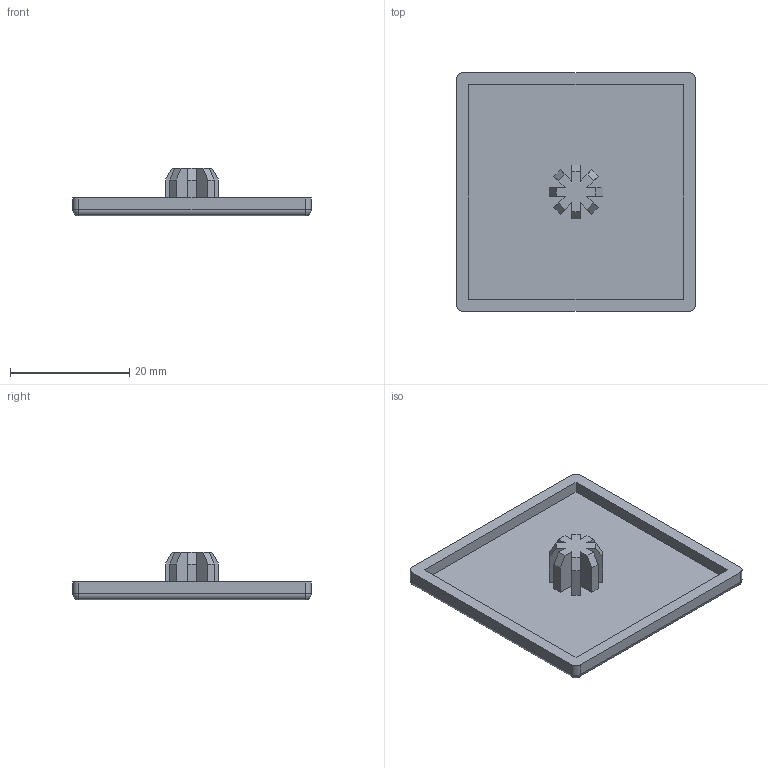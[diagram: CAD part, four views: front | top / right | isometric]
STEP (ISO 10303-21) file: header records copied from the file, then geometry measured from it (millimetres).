
FILE_DESCRIPTION(/* description */ (''),/* implementation_level */ '2;1');
FILE_NAME(/* name */ 'C:\Users\Owner\Documents\硯聰\Inv材料庫-3D新型錄\AMC-端蓋\8系列\AMC-4040.stp',/* time_stamp */ '2019-03-08T12:01:12+08:00',/* author */ ('Owner'),/* organization */ (''),/* preprocessor_version */ 'ST-DEVELOPER v16.1',/* originating_system */ 'Autodesk Inventor 2016',/* authorisation */ '');
FILE_SCHEMA (('AUTOMOTIVE_DESIGN { 1 0 10303 214 3 1 1 }'));
Length unit declared in the file: millimetre
Products named in the file (1): AMC-4040A
Bounding box: 40 x 40 x 8 mm (x, y, z)
Volume: 2460 mm3; surface area: 4249.5 mm2
Topology: 1 solids, 1 shells, 56 faces, 148 edges, 92 vertices
Faces by surface type: plane 44, cylinder 8, sphere 4
Entity records: 1692 total; most frequent: CARTESIAN_POINT 293, ORIENTED_EDGE 288, DIRECTION 274, EDGE_CURVE 144, LINE 128, VECTOR 128, VERTEX_POINT 92, AXIS2_PLACEMENT_3D 73
